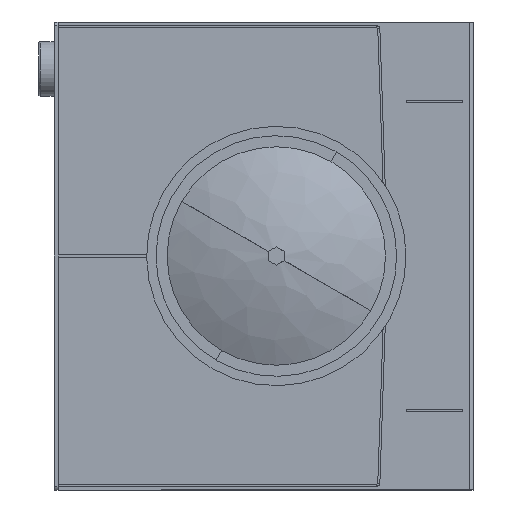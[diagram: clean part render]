
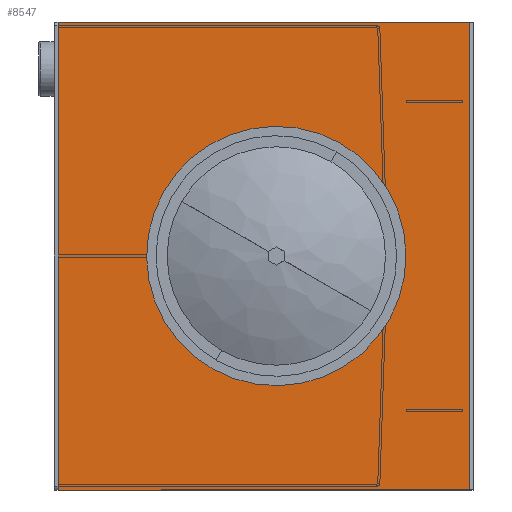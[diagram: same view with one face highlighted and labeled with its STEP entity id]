
A CAD part, left-side view. The second image highlights one B-rep face of the part: STEP entity #8547.
In plain terms, the highlighted planar face has unit normal (-1, 0, 0) as drawn and (1, 0, 0) by its records, which use the part's own axes.
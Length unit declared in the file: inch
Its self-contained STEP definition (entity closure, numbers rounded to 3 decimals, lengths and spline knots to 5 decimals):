
#322 = EDGE_CURVE ( 'NONE', #5786, #8508, #6976, .T. ) ;
#473 = EDGE_CURVE ( 'NONE', #1530, #2085, #2692, .T. ) ;
#579 = CARTESIAN_POINT ( 'NONE',  ( 0., 0.2595, 7. ) ) ;
#804 = DIRECTION ( 'NONE',  ( 1., 0., 0. ) ) ;
#899 = DIRECTION ( 'NONE',  ( 0., 0., -1. ) ) ;
#1060 = AXIS2_PLACEMENT_3D ( 'NONE', #1513, #6431, #2229 ) ;
#1142 = EDGE_CURVE ( 'NONE', #8508, #1530, #3327, .T. ) ;
#1513 = CARTESIAN_POINT ( 'NONE',  ( 0., 0., 0. ) ) ;
#1530 = VERTEX_POINT ( 'NONE', #7689 ) ;
#1640 = EDGE_CURVE ( 'NONE', #2058, #2905, #3541, .T. ) ;
#2058 = VERTEX_POINT ( 'NONE', #579 ) ;
#2085 = VERTEX_POINT ( 'NONE', #3566 ) ;
#2174 = VECTOR ( 'NONE', #6906, 39.37008 ) ;
#2229 = DIRECTION ( 'NONE',  ( 0., 0., 1. ) ) ;
#2468 = ORIENTED_EDGE ( 'NONE', *, *, #3858, .T. ) ;
#2469 = FACE_OUTER_BOUND ( 'NONE', #8318, .T. ) ;
#2692 = LINE ( 'NONE', #5967, #9067 ) ;
#2722 = CARTESIAN_POINT ( 'NONE',  ( 0., 14.25, 15. ) ) ;
#2905 = VERTEX_POINT ( 'NONE', #8638 ) ;
#3183 = CARTESIAN_POINT ( 'NONE',  ( 0., 14.25, 15. ) ) ;
#3285 = VECTOR ( 'NONE', #4281, 39.37008 ) ;
#3302 = CARTESIAN_POINT ( 'NONE',  ( 0., 0.2595, 0. ) ) ;
#3327 = LINE ( 'NONE', #8581, #8477 ) ;
#3541 = CIRCLE ( 'NONE', #8280, 7. ) ;
#3566 = CARTESIAN_POINT ( 'NONE',  ( 0., 14.25, -15. ) ) ;
#3778 = ORIENTED_EDGE ( 'NONE', *, *, #1640, .F. ) ;
#3858 = EDGE_CURVE ( 'NONE', #2085, #5786, #7548, .T. ) ;
#3872 = DIRECTION ( 'NONE',  ( 0., 1., 0. ) ) ;
#3982 = EDGE_LOOP ( 'NONE', ( #8133, #3778 ) ) ;
#4002 = DIRECTION ( 'NONE',  ( 0., 0., -1. ) ) ;
#4122 = FACE_BOUND ( 'NONE', #3982, .T. ) ;
#4214 = CIRCLE ( 'NONE', #8897, 7. ) ;
#4281 = DIRECTION ( 'NONE',  ( 0., -1., 0. ) ) ;
#4983 = EDGE_CURVE ( 'NONE', #2905, #2058, #4214, .T. ) ;
#5012 = CARTESIAN_POINT ( 'NONE',  ( 0., 0.2595, 0. ) ) ;
#5393 = ORIENTED_EDGE ( 'NONE', *, *, #473, .T. ) ;
#5479 = ORIENTED_EDGE ( 'NONE', *, *, #322, .T. ) ;
#5694 = CARTESIAN_POINT ( 'NONE',  ( 0., -12.125, 15. ) ) ;
#5726 = DIRECTION ( 'NONE',  ( 0., 0., -1. ) ) ;
#5786 = VERTEX_POINT ( 'NONE', #3183 ) ;
#5967 = CARTESIAN_POINT ( 'NONE',  ( 0., -12.375, -15. ) ) ;
#6431 = DIRECTION ( 'NONE',  ( -1., 0., 0. ) ) ;
#6906 = DIRECTION ( 'NONE',  ( 0., 0., 1. ) ) ;
#6976 = LINE ( 'NONE', #7075, #3285 ) ;
#7075 = CARTESIAN_POINT ( 'NONE',  ( 0., -12.375, 15. ) ) ;
#7243 = ORIENTED_EDGE ( 'NONE', *, *, #1142, .T. ) ;
#7548 = LINE ( 'NONE', #2722, #2174 ) ;
#7689 = CARTESIAN_POINT ( 'NONE',  ( 0., -12.125, -15. ) ) ;
#8133 = ORIENTED_EDGE ( 'NONE', *, *, #4983, .F. ) ;
#8193 = DIRECTION ( 'NONE',  ( 1., 0., 0. ) ) ;
#8280 = AXIS2_PLACEMENT_3D ( 'NONE', #5012, #804, #5726 ) ;
#8318 = EDGE_LOOP ( 'NONE', ( #7243, #5393, #2468, #5479 ) ) ;
#8477 = VECTOR ( 'NONE', #899, 39.37008 ) ;
#8493 = PLANE ( 'NONE',  #1060 ) ;
#8508 = VERTEX_POINT ( 'NONE', #5694 ) ;
#8547 = ADVANCED_FACE ( 'NONE', ( #4122, #2469 ), #8493, .F. ) ;
#8581 = CARTESIAN_POINT ( 'NONE',  ( 0., -12.125, 15. ) ) ;
#8638 = CARTESIAN_POINT ( 'NONE',  ( 0., 0.2595, -7. ) ) ;
#8897 = AXIS2_PLACEMENT_3D ( 'NONE', #3302, #8193, #4002 ) ;
#9067 = VECTOR ( 'NONE', #3872, 39.37008 ) ;
